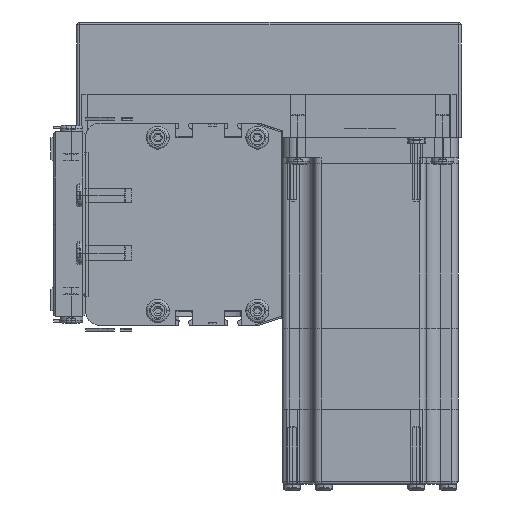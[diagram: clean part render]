
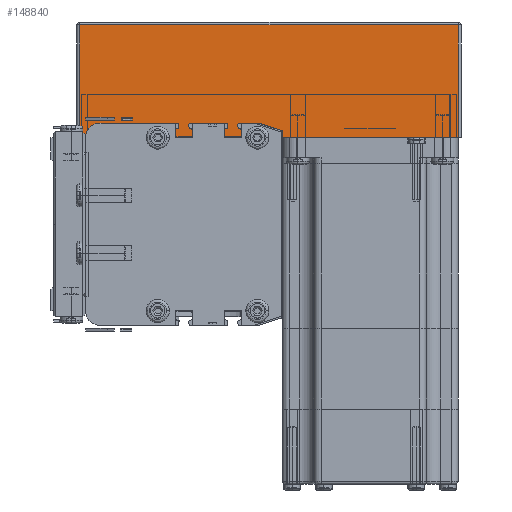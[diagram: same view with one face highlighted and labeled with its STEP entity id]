
A CAD part, left-side view. The second image highlights one B-rep face of the part: STEP entity #148840.
In plain terms, the highlighted planar face has unit normal (-1, 0, 0) as drawn and (0, 1, 0) by its records, which use the part's own axes.
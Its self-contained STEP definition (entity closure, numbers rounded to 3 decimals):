
#95439 = LINE ( 'NONE', #95456, #95533 ) ;
#95456 = CARTESIAN_POINT ( 'NONE',  ( 132., 62., 40. ) ) ;
#95476 = CARTESIAN_POINT ( 'NONE',  ( 0., 62., 40. ) ) ;
#95478 = PLANE ( 'NONE',  #95520 ) ;
#95489 = LINE ( 'NONE', #95501, #95499 ) ;
#95499 = VECTOR ( 'NONE', #95586, 1000. ) ;
#95501 = CARTESIAN_POINT ( 'NONE',  ( 1., 62., 40. ) ) ;
#95509 = DIRECTION ( 'NONE',  ( 1., 0., 0. ) ) ;
#95511 = VECTOR ( 'NONE', #95509, 1000. ) ;
#95518 = DIRECTION ( 'NONE',  ( 0., 0., -1. ) ) ;
#95519 = DIRECTION ( 'NONE',  ( 0., -1., 0. ) ) ;
#95520 = AXIS2_PLACEMENT_3D ( 'NONE', #95476, #95519, #95518 ) ;
#95521 = CARTESIAN_POINT ( 'NONE',  ( 0., 62., 39. ) ) ;
#95522 = LINE ( 'NONE', #95521, #95511 ) ;
#95527 = FACE_OUTER_BOUND ( 'NONE', #148937, .T. ) ;
#95531 = DIRECTION ( 'NONE',  ( 0., 0., -1. ) ) ;
#95533 = VECTOR ( 'NONE', #95531, 1000. ) ;
#95534 = CARTESIAN_POINT ( 'NONE',  ( 132., 62., 39. ) ) ;
#95536 = CARTESIAN_POINT ( 'NONE',  ( 1., 62., 39. ) ) ;
#95586 = DIRECTION ( 'NONE',  ( 0., 0., 1. ) ) ;
#96527 = CARTESIAN_POINT ( 'NONE',  ( 132., 62., 0. ) ) ;
#96530 = DIRECTION ( 'NONE',  ( -1., 0., 0. ) ) ;
#96531 = VECTOR ( 'NONE', #96530, 1000. ) ;
#96532 = CARTESIAN_POINT ( 'NONE',  ( 0., 62., 0. ) ) ;
#96535 = LINE ( 'NONE', #96532, #96531 ) ;
#96690 = CARTESIAN_POINT ( 'NONE',  ( 1., 62., 0. ) ) ;
#148832 = EDGE_CURVE ( 'NONE', #148838, #149008, #95439, .T. ) ;
#148836 = VERTEX_POINT ( 'NONE', #95536 ) ;
#148838 = VERTEX_POINT ( 'NONE', #95534 ) ;
#148840 = ADVANCED_FACE ( 'NONE', ( #95527 ), #95478, .F. ) ;
#148843 = ORIENTED_EDGE ( 'NONE', *, *, #149001, .T. ) ;
#148847 = ORIENTED_EDGE ( 'NONE', *, *, #148832, .T. ) ;
#148850 = ORIENTED_EDGE ( 'NONE', *, *, #148872, .T. ) ;
#148856 = ORIENTED_EDGE ( 'NONE', *, *, #148858, .T. ) ;
#148858 = EDGE_CURVE ( 'NONE', #148836, #148838, #95522, .T. ) ;
#148872 = EDGE_CURVE ( 'NONE', #149089, #148836, #95489, .T. ) ;
#148937 = EDGE_LOOP ( 'NONE', ( #148856, #148847, #148843, #148850 ) ) ;
#149001 = EDGE_CURVE ( 'NONE', #149008, #149089, #96535, .T. ) ;
#149008 = VERTEX_POINT ( 'NONE', #96527 ) ;
#149089 = VERTEX_POINT ( 'NONE', #96690 ) ;
